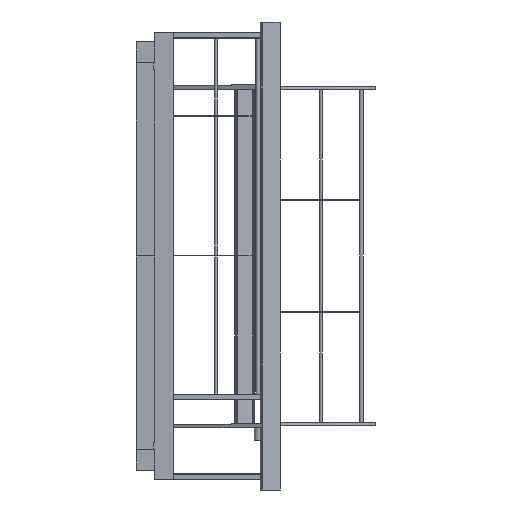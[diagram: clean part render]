
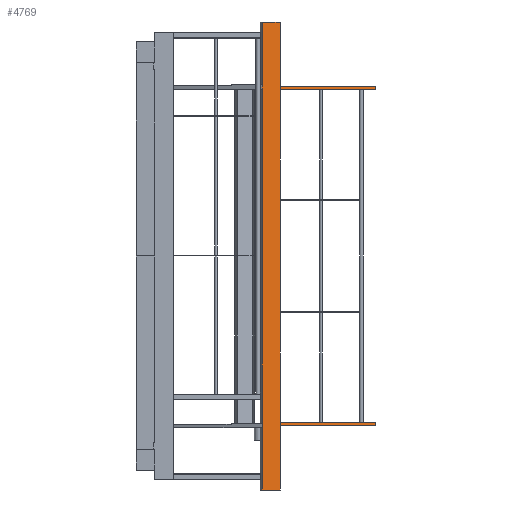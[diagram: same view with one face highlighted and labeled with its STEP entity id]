
A CAD part, left-side view. The second image highlights one B-rep face of the part: STEP entity #4769.
In plain terms, the highlighted free-form (B-spline) face has degree [1, 1] with [2, 2] control points.
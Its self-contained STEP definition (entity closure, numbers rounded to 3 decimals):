
#4452=CARTESIAN_POINT('',(0.,-100.,-1822.5));
#4453=VERTEX_POINT('',#4452);
#4454=CARTESIAN_POINT('',(0.,-100.0,-2509.5));
#4455=VERTEX_POINT('',#4454);
#4456=CARTESIAN_POINT('',(0.,-100.,-1822.5));
#4457=DIRECTION('',(0.0,0.0,-1.0));
#4458=VECTOR('',#4457,687.);
#4459=LINE('',#4456,#4458);
#4460=EDGE_CURVE('',#4453,#4455,#4459,.T.);
#4478=CARTESIAN_POINT('',(0.,-100.0,2509.5));
#4479=VERTEX_POINT('',#4478);
#4486=CARTESIAN_POINT('',(0.,-100.,1822.5));
#4487=VERTEX_POINT('',#4486);
#4488=CARTESIAN_POINT('',(0.,-100.0,2509.5));
#4489=DIRECTION('',(0.0,0.0,-1.0));
#4490=VECTOR('',#4489,687.0);
#4491=LINE('',#4488,#4490);
#4492=EDGE_CURVE('',#4479,#4487,#4491,.T.);
#4510=CARTESIAN_POINT('',(0.,-100.,1782.5));
#4511=VERTEX_POINT('',#4510);
#4518=CARTESIAN_POINT('',(0.,-100.,610.0));
#4519=VERTEX_POINT('',#4518);
#4520=CARTESIAN_POINT('',(0.,-100.,1782.5));
#4521=DIRECTION('',(0.0,0.0,-1.0));
#4522=VECTOR('',#4521,1172.5);
#4523=LINE('',#4520,#4522);
#4524=EDGE_CURVE('',#4511,#4519,#4523,.T.);
#4542=CARTESIAN_POINT('',(0.,-100.,600.0));
#4543=VERTEX_POINT('',#4542);
#4550=CARTESIAN_POINT('',(0.,-100.0,-600.));
#4551=VERTEX_POINT('',#4550);
#4552=CARTESIAN_POINT('',(0.,-100.,600.0));
#4553=DIRECTION('',(0.0,0.0,-1.0));
#4554=VECTOR('',#4553,1200.);
#4555=LINE('',#4552,#4554);
#4556=EDGE_CURVE('',#4543,#4551,#4555,.T.);
#4574=CARTESIAN_POINT('',(0.,-100.0,-610.));
#4575=VERTEX_POINT('',#4574);
#4582=CARTESIAN_POINT('',(0.,-100.,-1782.5));
#4583=VERTEX_POINT('',#4582);
#4584=CARTESIAN_POINT('',(0.,-100.0,-610.));
#4585=DIRECTION('',(0.0,0.0,-1.0));
#4586=VECTOR('',#4585,1172.5);
#4587=LINE('',#4584,#4586);
#4588=EDGE_CURVE('',#4575,#4583,#4587,.T.);
#4615=CARTESIAN_POINT('',(0.,100.0,2509.5));
#4616=CARTESIAN_POINT('',(0.,100.0,-2509.5));
#4617=CARTESIAN_POINT('',(0.,-1169.0,2509.5));
#4618=CARTESIAN_POINT('',(0.,-1169.0,-2509.5));
#4619=B_SPLINE_SURFACE_WITH_KNOTS('',1,1,((#4615,#4617),(#4616,#4618)),.UNSPECIFIED.,.F.,.F.,.U.,(2,2),(2,2),(0.0,5019.0),(0.0,1269.0),.UNSPECIFIED.);
#4620=CARTESIAN_POINT('',(0.,100.0,-2509.5));
#4621=VERTEX_POINT('',#4620);
#4622=CARTESIAN_POINT('',(0.,100.0,-1842.5));
#4623=VERTEX_POINT('',#4622);
#4624=CARTESIAN_POINT('',(0.,100.0,-2509.5));
#4625=DIRECTION('',(0.0,0.0,1.0));
#4626=VECTOR('',#4625,667.);
#4627=LINE('',#4624,#4626);
#4628=EDGE_CURVE('',#4621,#4623,#4627,.T.);
#4629=ORIENTED_EDGE('',*,*,#4628,.F.);
#4630=CARTESIAN_POINT('',(0.,-100.0,-2509.5));
#4631=DIRECTION('',(0.0,1.0,0.0));
#4632=VECTOR('',#4631,200.0);
#4633=LINE('',#4630,#4632);
#4634=EDGE_CURVE('',#4455,#4621,#4633,.T.);
#4635=ORIENTED_EDGE('',*,*,#4634,.F.);
#4636=ORIENTED_EDGE('',*,*,#4460,.F.);
#4637=CARTESIAN_POINT('',(0.,-1169.0,-1822.5));
#4638=VERTEX_POINT('',#4637);
#4639=CARTESIAN_POINT('',(0.,-100.,-1822.5));
#4640=DIRECTION('',(0.0,-1.0,0.0));
#4641=VECTOR('',#4640,1069.0);
#4642=LINE('',#4639,#4641);
#4643=EDGE_CURVE('',#4453,#4638,#4642,.T.);
#4644=ORIENTED_EDGE('',*,*,#4643,.T.);
#4645=CARTESIAN_POINT('',(0.,-1169.0,-1782.5));
#4646=VERTEX_POINT('',#4645);
#4647=CARTESIAN_POINT('',(0.,-1169.0,-1782.5));
#4648=DIRECTION('',(0.0,0.0,-1.0));
#4649=VECTOR('',#4648,40.0);
#4650=LINE('',#4647,#4649);
#4651=EDGE_CURVE('',#4646,#4638,#4650,.T.);
#4652=ORIENTED_EDGE('',*,*,#4651,.F.);
#4653=CARTESIAN_POINT('',(0.,-100.,-1782.5));
#4654=DIRECTION('',(0.0,-1.0,0.0));
#4655=VECTOR('',#4654,1069.0);
#4656=LINE('',#4653,#4655);
#4657=EDGE_CURVE('',#4583,#4646,#4656,.T.);
#4658=ORIENTED_EDGE('',*,*,#4657,.F.);
#4659=ORIENTED_EDGE('',*,*,#4588,.F.);
#4660=CARTESIAN_POINT('',(0.,-940.0,-610.));
#4661=VERTEX_POINT('',#4660);
#4662=CARTESIAN_POINT('',(0.,-100.0,-610.));
#4663=DIRECTION('',(0.0,-1.0,0.0));
#4664=VECTOR('',#4663,840.0);
#4665=LINE('',#4662,#4664);
#4666=EDGE_CURVE('',#4575,#4661,#4665,.T.);
#4667=ORIENTED_EDGE('',*,*,#4666,.T.);
#4668=CARTESIAN_POINT('',(0.,-940.0,-600.));
#4669=VERTEX_POINT('',#4668);
#4670=CARTESIAN_POINT('',(0.,-940.0,-600.));
#4671=DIRECTION('',(0.0,0.0,-1.0));
#4672=VECTOR('',#4671,10.0);
#4673=LINE('',#4670,#4672);
#4674=EDGE_CURVE('',#4669,#4661,#4673,.T.);
#4675=ORIENTED_EDGE('',*,*,#4674,.F.);
#4676=CARTESIAN_POINT('',(0.,-100.0,-600.));
#4677=DIRECTION('',(0.0,-1.0,0.0));
#4678=VECTOR('',#4677,840.0);
#4679=LINE('',#4676,#4678);
#4680=EDGE_CURVE('',#4551,#4669,#4679,.T.);
#4681=ORIENTED_EDGE('',*,*,#4680,.F.);
#4682=ORIENTED_EDGE('',*,*,#4556,.F.);
#4683=CARTESIAN_POINT('',(0.,-940.0,600.0));
#4684=VERTEX_POINT('',#4683);
#4685=CARTESIAN_POINT('',(0.,-100.,600.0));
#4686=DIRECTION('',(0.0,-1.0,0.0));
#4687=VECTOR('',#4686,840.0);
#4688=LINE('',#4685,#4687);
#4689=EDGE_CURVE('',#4543,#4684,#4688,.T.);
#4690=ORIENTED_EDGE('',*,*,#4689,.T.);
#4691=CARTESIAN_POINT('',(0.,-940.0,610.0));
#4692=VERTEX_POINT('',#4691);
#4693=CARTESIAN_POINT('',(0.,-940.0,610.0));
#4694=DIRECTION('',(0.0,0.0,-1.0));
#4695=VECTOR('',#4694,10.0);
#4696=LINE('',#4693,#4695);
#4697=EDGE_CURVE('',#4692,#4684,#4696,.T.);
#4698=ORIENTED_EDGE('',*,*,#4697,.F.);
#4699=CARTESIAN_POINT('',(0.,-100.,610.0));
#4700=DIRECTION('',(0.0,-1.0,0.0));
#4701=VECTOR('',#4700,840.0);
#4702=LINE('',#4699,#4701);
#4703=EDGE_CURVE('',#4519,#4692,#4702,.T.);
#4704=ORIENTED_EDGE('',*,*,#4703,.F.);
#4705=ORIENTED_EDGE('',*,*,#4524,.F.);
#4706=CARTESIAN_POINT('',(0.,-1169.0,1782.5));
#4707=VERTEX_POINT('',#4706);
#4708=CARTESIAN_POINT('',(0.,-100.,1782.5));
#4709=DIRECTION('',(0.0,-1.0,0.0));
#4710=VECTOR('',#4709,1069.0);
#4711=LINE('',#4708,#4710);
#4712=EDGE_CURVE('',#4511,#4707,#4711,.T.);
#4713=ORIENTED_EDGE('',*,*,#4712,.T.);
#4714=CARTESIAN_POINT('',(0.,-1169.0,1822.5));
#4715=VERTEX_POINT('',#4714);
#4716=CARTESIAN_POINT('',(0.,-1169.0,1822.5));
#4717=DIRECTION('',(0.0,0.0,-1.0));
#4718=VECTOR('',#4717,40.0);
#4719=LINE('',#4716,#4718);
#4720=EDGE_CURVE('',#4715,#4707,#4719,.T.);
#4721=ORIENTED_EDGE('',*,*,#4720,.F.);
#4722=CARTESIAN_POINT('',(0.,-100.,1822.5));
#4723=DIRECTION('',(0.0,-1.0,0.0));
#4724=VECTOR('',#4723,1069.0);
#4725=LINE('',#4722,#4724);
#4726=EDGE_CURVE('',#4487,#4715,#4725,.T.);
#4727=ORIENTED_EDGE('',*,*,#4726,.F.);
#4728=ORIENTED_EDGE('',*,*,#4492,.F.);
#4729=CARTESIAN_POINT('',(0.,100.0,2509.5));
#4730=VERTEX_POINT('',#4729);
#4731=CARTESIAN_POINT('',(0.,100.0,2509.5));
#4732=DIRECTION('',(0.0,-1.0,0.0));
#4733=VECTOR('',#4732,200.0);
#4734=LINE('',#4731,#4733);
#4735=EDGE_CURVE('',#4730,#4479,#4734,.T.);
#4736=ORIENTED_EDGE('',*,*,#4735,.F.);
#4737=CARTESIAN_POINT('',(0.,100.0,1837.5));
#4738=VERTEX_POINT('',#4737);
#4739=CARTESIAN_POINT('',(0.,100.0,1837.5));
#4740=DIRECTION('',(0.0,0.0,1.0));
#4741=VECTOR('',#4740,672.);
#4742=LINE('',#4739,#4741);
#4743=EDGE_CURVE('',#4738,#4730,#4742,.T.);
#4744=ORIENTED_EDGE('',*,*,#4743,.F.);
#4745=CARTESIAN_POINT('',(0.,100.0,1787.5));
#4746=VERTEX_POINT('',#4745);
#4747=CARTESIAN_POINT('',(0.,100.0,1787.5));
#4748=DIRECTION('',(0.0,0.0,1.0));
#4749=VECTOR('',#4748,50.);
#4750=LINE('',#4747,#4749);
#4751=EDGE_CURVE('',#4746,#4738,#4750,.T.);
#4752=ORIENTED_EDGE('',*,*,#4751,.F.);
#4753=CARTESIAN_POINT('',(0.,100.0,-1792.5));
#4754=VERTEX_POINT('',#4753);
#4755=CARTESIAN_POINT('',(0.,100.0,-1792.5));
#4756=DIRECTION('',(0.0,0.0,1.0));
#4757=VECTOR('',#4756,3580.);
#4758=LINE('',#4755,#4757);
#4759=EDGE_CURVE('',#4754,#4746,#4758,.T.);
#4760=ORIENTED_EDGE('',*,*,#4759,.F.);
#4761=CARTESIAN_POINT('',(0.,100.0,-1842.5));
#4762=DIRECTION('',(0.0,0.0,1.0));
#4763=VECTOR('',#4762,50.);
#4764=LINE('',#4761,#4763);
#4765=EDGE_CURVE('',#4623,#4754,#4764,.T.);
#4766=ORIENTED_EDGE('',*,*,#4765,.F.);
#4767=EDGE_LOOP('',(#4629,#4635,#4636,#4644,#4652,#4658,#4659,#4667,#4675,#4681,#4682,#4690,#4698,#4704,#4705,#4713,#4721,#4727,#4728,#4736,#4744,#4752,#4760,#4766));
#4768=FACE_OUTER_BOUND('',#4767,.T.);
#4769=ADVANCED_FACE('',(#4768),#4619,.T.);
